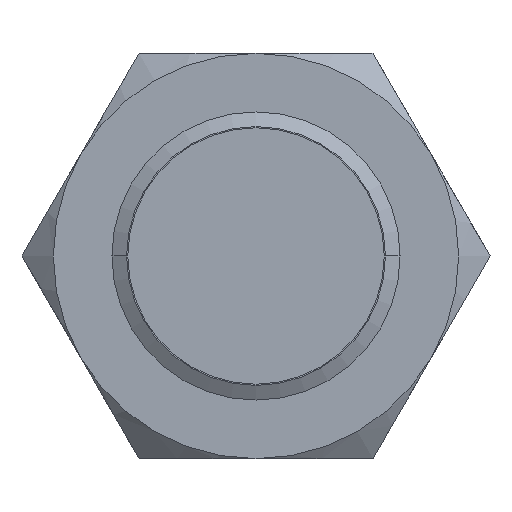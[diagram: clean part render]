
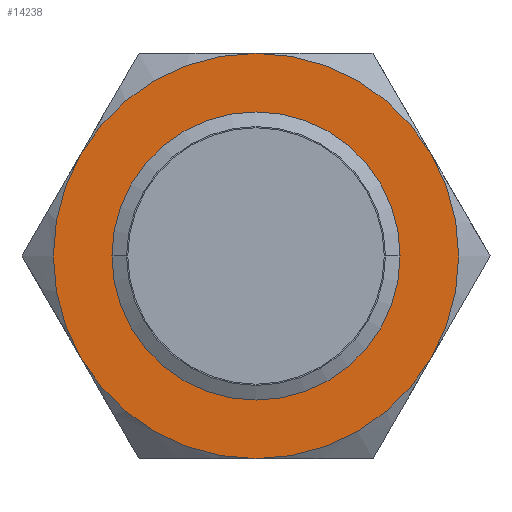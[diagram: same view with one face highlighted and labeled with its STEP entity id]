
A CAD part, left-side view. The second image highlights one B-rep face of the part: STEP entity #14238.
In plain terms, the highlighted planar face has unit normal (-1, 0, 0).
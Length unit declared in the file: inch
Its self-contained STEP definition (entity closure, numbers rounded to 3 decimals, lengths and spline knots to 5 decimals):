
#945 = CARTESIAN_POINT ( 'NONE',  ( 17.9433, 6.87624, 0.166 ) ) ;
#1097 = CIRCLE ( 'NONE', #1098, 0.332 ) ;
#1098 = AXIS2_PLACEMENT_3D ( 'NONE', #1099, #1100, #1104 ) ;
#1099 = CARTESIAN_POINT ( 'NONE',  ( 17.9433, 7.16376, 0. ) ) ;
#1100 = DIRECTION ( 'NONE',  ( 1., 0., 0. ) ) ;
#1104 = DIRECTION ( 'NONE',  ( 0., 0., -1. ) ) ;
#1163 = EDGE_CURVE ( 'NONE', #12125, #12373, #12562, .T. ) ;
#2247 = CARTESIAN_POINT ( 'NONE',  ( 17.9433, 7.45128, 0.166 ) ) ;
#2475 = CIRCLE ( 'NONE', #2476, 0.332 ) ;
#2476 = AXIS2_PLACEMENT_3D ( 'NONE', #2477, #2478, #2479 ) ;
#2477 = CARTESIAN_POINT ( 'NONE',  ( 17.9433, 7.16376, 0. ) ) ;
#2478 = DIRECTION ( 'NONE',  ( 1., 0., 0. ) ) ;
#2479 = DIRECTION ( 'NONE',  ( 0., 0., -1. ) ) ;
#3532 = VERTEX_POINT ( 'NONE', #13941 ) ;
#3558 = CARTESIAN_POINT ( 'NONE',  ( 17.9433, 7.16376, -0.332 ) ) ;
#3960 = CIRCLE ( 'NONE', #3961, 0.332 ) ;
#3961 = AXIS2_PLACEMENT_3D ( 'NONE', #3964, #3965, #3966 ) ;
#3964 = CARTESIAN_POINT ( 'NONE',  ( 17.9433, 7.16376, 0. ) ) ;
#3965 = DIRECTION ( 'NONE',  ( 1., 0., 0. ) ) ;
#3966 = DIRECTION ( 'NONE',  ( 0., 0., -1. ) ) ;
#4238 = ORIENTED_EDGE ( 'NONE', *, *, #11324, .F. ) ;
#4828 = ORIENTED_EDGE ( 'NONE', *, *, #8294, .F. ) ;
#5097 = CIRCLE ( 'NONE', #5098, 0.332 ) ;
#5098 = AXIS2_PLACEMENT_3D ( 'NONE', #5099, #5100, #5101 ) ;
#5099 = CARTESIAN_POINT ( 'NONE',  ( 17.9433, 7.16376, 0. ) ) ;
#5100 = DIRECTION ( 'NONE',  ( 1., 0., 0. ) ) ;
#5101 = DIRECTION ( 'NONE',  ( 0., 0., -1. ) ) ;
#5392 = EDGE_CURVE ( 'NONE', #5661, #10075, #14905, .T. ) ;
#5412 = ORIENTED_EDGE ( 'NONE', *, *, #5392, .F. ) ;
#5661 = VERTEX_POINT ( 'NONE', #15017 ) ;
#6007 = ORIENTED_EDGE ( 'NONE', *, *, #10894, .F. ) ;
#6081 = CARTESIAN_POINT ( 'NONE',  ( 17.9433, 6.87624, -0.166 ) ) ;
#6600 = ORIENTED_EDGE ( 'NONE', *, *, #10202, .F. ) ;
#6750 = CARTESIAN_POINT ( 'NONE',  ( 17.9433, 6.93276, 0. ) ) ;
#6839 = CIRCLE ( 'NONE', #6840, 0.332 ) ;
#6840 = AXIS2_PLACEMENT_3D ( 'NONE', #6841, #6842, #6845 ) ;
#6841 = CARTESIAN_POINT ( 'NONE',  ( 17.9433, 7.16376, 0. ) ) ;
#6842 = DIRECTION ( 'NONE',  ( 1., 0., 0. ) ) ;
#6845 = DIRECTION ( 'NONE',  ( 0., 0., -1. ) ) ;
#6877 = CARTESIAN_POINT ( 'NONE',  ( 17.9433, 7.39476, 0. ) ) ;
#6936 = CIRCLE ( 'NONE', #6940, 0.231 ) ;
#6940 = AXIS2_PLACEMENT_3D ( 'NONE', #6941, #6942, #6943 ) ;
#6941 = CARTESIAN_POINT ( 'NONE',  ( 17.9433, 7.16376, 0. ) ) ;
#6942 = DIRECTION ( 'NONE',  ( -1., 0., 0. ) ) ;
#6943 = DIRECTION ( 'NONE',  ( 0., 1., 0. ) ) ;
#7188 = ORIENTED_EDGE ( 'NONE', *, *, #12305, .F. ) ;
#7827 = FACE_BOUND ( 'NONE', #13973, .T. ) ;
#7828 = FACE_OUTER_BOUND ( 'NONE', #7952, .T. ) ;
#7829 = PLANE ( 'NONE',  #7835 ) ;
#7835 = AXIS2_PLACEMENT_3D ( 'NONE', #7836, #7837, #7838 ) ;
#7836 = CARTESIAN_POINT ( 'NONE',  ( 17.9433, 7.16376, 0. ) ) ;
#7837 = DIRECTION ( 'NONE',  ( 1., 0., 0. ) ) ;
#7838 = DIRECTION ( 'NONE',  ( 0., 0., -1. ) ) ;
#7952 = EDGE_LOOP ( 'NONE', ( #7188, #6600, #6007, #5412, #4828, #4238 ) ) ;
#8034 = VERTEX_POINT ( 'NONE', #945 ) ;
#8227 = ORIENTED_EDGE ( 'NONE', *, *, #1163, .F. ) ;
#8294 = EDGE_CURVE ( 'NONE', #10660, #5661, #1097, .T. ) ;
#8838 = ORIENTED_EDGE ( 'NONE', *, *, #12621, .F. ) ;
#10075 = VERTEX_POINT ( 'NONE', #2247 ) ;
#10202 = EDGE_CURVE ( 'NONE', #3532, #8034, #2475, .T. ) ;
#10660 = VERTEX_POINT ( 'NONE', #3558 ) ;
#10894 = EDGE_CURVE ( 'NONE', #10075, #3532, #3960, .T. ) ;
#11324 = EDGE_CURVE ( 'NONE', #11780, #10660, #5097, .T. ) ;
#11780 = VERTEX_POINT ( 'NONE', #6081 ) ;
#12125 = VERTEX_POINT ( 'NONE', #6750 ) ;
#12305 = EDGE_CURVE ( 'NONE', #8034, #11780, #6839, .T. ) ;
#12373 = VERTEX_POINT ( 'NONE', #6877 ) ;
#12562 = CIRCLE ( 'NONE', #12563, 0.231 ) ;
#12563 = AXIS2_PLACEMENT_3D ( 'NONE', #12564, #12565, #12566 ) ;
#12564 = CARTESIAN_POINT ( 'NONE',  ( 17.9433, 7.16376, 0. ) ) ;
#12565 = DIRECTION ( 'NONE',  ( -1., 0., 0. ) ) ;
#12566 = DIRECTION ( 'NONE',  ( 0., 1., 0. ) ) ;
#12621 = EDGE_CURVE ( 'NONE', #12373, #12125, #6936, .T. ) ;
#13941 = CARTESIAN_POINT ( 'NONE',  ( 17.9433, 7.16376, 0.332 ) ) ;
#13973 = EDGE_LOOP ( 'NONE', ( #8838, #8227 ) ) ;
#14238 = ADVANCED_FACE ( 'NONE', ( #7827, #7828 ), #7829, .F. ) ;
#14905 = CIRCLE ( 'NONE', #14906, 0.332 ) ;
#14906 = AXIS2_PLACEMENT_3D ( 'NONE', #14907, #14908, #14909 ) ;
#14907 = CARTESIAN_POINT ( 'NONE',  ( 17.9433, 7.16376, 0. ) ) ;
#14908 = DIRECTION ( 'NONE',  ( 1., 0., 0. ) ) ;
#14909 = DIRECTION ( 'NONE',  ( 0., 0., -1. ) ) ;
#15017 = CARTESIAN_POINT ( 'NONE',  ( 17.9433, 7.45128, -0.166 ) ) ;
